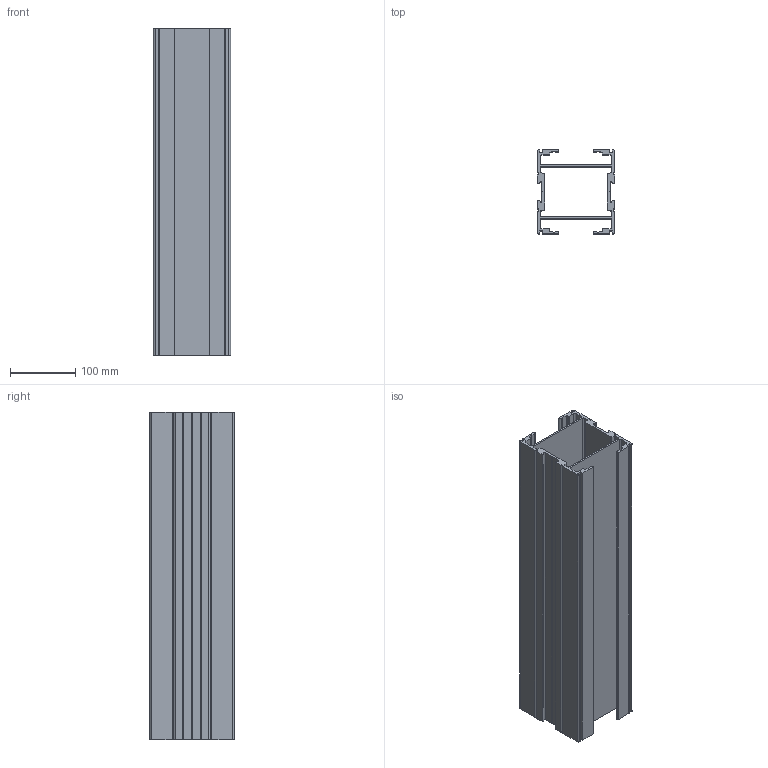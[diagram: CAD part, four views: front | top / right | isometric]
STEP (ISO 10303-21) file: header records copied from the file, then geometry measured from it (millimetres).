
FILE_DESCRIPTION (( 'STEP AP203' ), '1' );
FILE_NAME ('R3PS.STEP', '2009-01-13T08:50:39', ( 'faber' ), ( '' ), 'SwSTEP 2.0', 'SolidWorks 2008', '' );
FILE_SCHEMA (( 'CONFIG_CONTROL_DESIGN' ));
Length unit declared in the file: millimetre
Products named in the file (1): R3PS
Bounding box: 118 x 129 x 500 mm (x, y, z)
Volume: 1313143.6 mm3; surface area: 641005.1 mm2
Topology: 1 solids, 1 shells, 138 faces, 408 edges, 272 vertices
Faces by surface type: plane 76, cylinder 62
Entity records: 4717 total; most frequent: CARTESIAN_POINT 819, ORIENTED_EDGE 816, DIRECTION 810, EDGE_CURVE 408, VECTOR 284, LINE 284, VERTEX_POINT 272, AXIS2_PLACEMENT_3D 263
